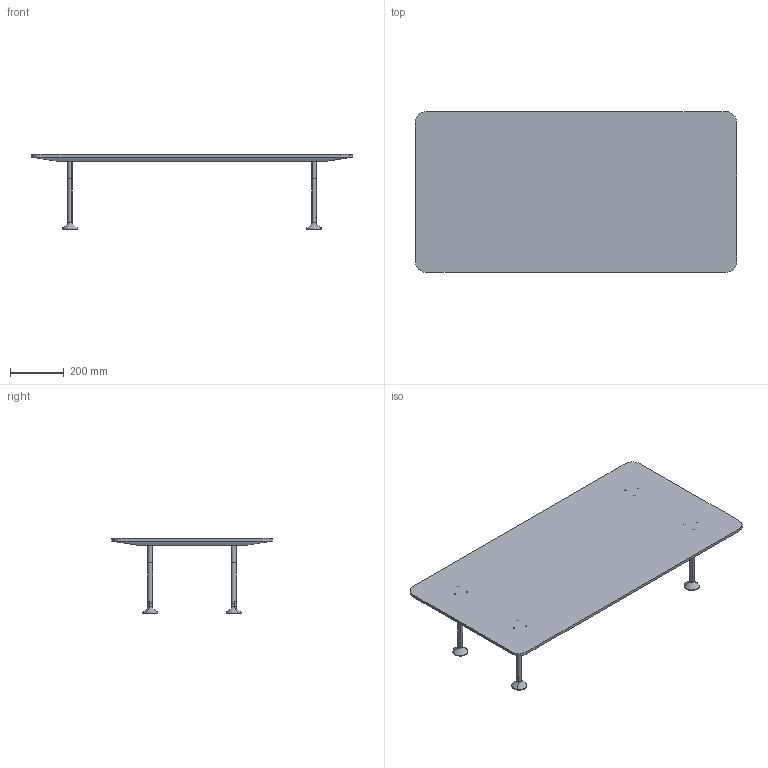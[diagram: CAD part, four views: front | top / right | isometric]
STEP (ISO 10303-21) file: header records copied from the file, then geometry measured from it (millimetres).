
FILE_DESCRIPTION(/* description */ (''),/* implementation_level */ '2;1');
FILE_NAME(/* name */ 'RECTAN~2',/* time_stamp */ '2016-09-23T10:06:25+02:00',/* author */ (''),/* organization */ (''),/* preprocessor_version */ 'ST-DEVELOPER v14',/* originating_system */ '',/* authorisation */ '');
FILE_SCHEMA (('CONFIG_CONTROL_DESIGN'));
Length unit declared in the file: millimetre
Products named in the file (1): Document
Bounding box: 1200 x 600 x 281 mm (x, y, z)
Volume: 16121998.4 mm3; surface area: 1664116 mm2
Topology: 13 solids, 13 shells, 182 faces, 394 edges, 238 vertices
Faces by surface type: bspline 148, plane 34
Entity records: 19542 total; most frequent: CARTESIAN_POINT 17238, ORIENTED_EDGE 756, EDGE_CURVE 378, EDGE_LOOP 238, VERTEX_POINT 238, ADVANCED_FACE 182, FACE_OUTER_BOUND 182, FACE_BOUND 56
